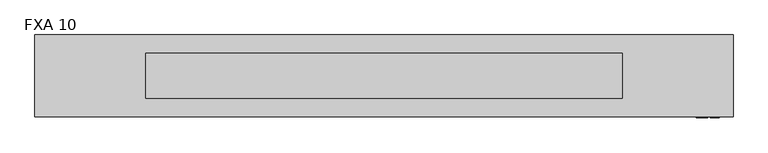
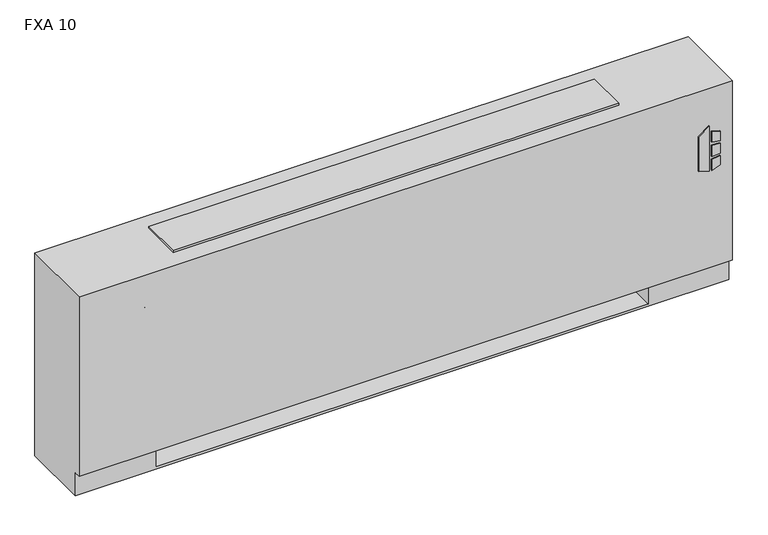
"""IFC4 building model written with IfcOpenShell, lengths in millimetres: proxy geometry, Vertical_Fan_Coil_Unit_-_FXA_-_IEC_-_2-Pipe_TS-FR_LH_2022 : FXA 10."""

import ifcopenshell
import ifcopenshell.guid

model = None  # the IFC model being written
_history = None  # IfcOwnerHistory: only IFC2X3 demands one
_inside = {}  # id of a spatial element -> (the spatial element, [elements in it])
_under = {}  # id of a project, library or spatial element -> (it, [spatial elements below it])
_declared = {}  # id of a project -> (the project, [libraries it declares])
_typed = {}  # id of a type object -> (the type object, [elements of that type])
_made_of = {}  # id of a material, layer set ... -> (it, [elements and type objects made of it])


def new_model(schema):
    """Start an empty IFC model of exactly this schema.

    Asked for "IFC4X3", IfcOpenShell would pick the latest addendum, in which some entities
    have other attributes; the version numbers below select the first issue.
    IFC2X3 requires an IfcOwnerHistory on every rooted entity: one is made here for all.
    """
    global model, _history
    if schema == "IFC4X3":
        model = ifcopenshell.file(schema_version=(4, 3, 0, 0))
    else:
        model = ifcopenshell.file(schema=schema)
    _inside.clear()
    _under.clear()
    _declared.clear()
    _typed.clear()
    _made_of.clear()
    _history = None
    if model.schema == "IFC2X3":
        org = make("IfcOrganization", Name="unknown")
        user = make(
            "IfcPersonAndOrganization",
            ThePerson=make("IfcPerson", FamilyName="unknown"),
            TheOrganization=org,
        )
        app = make(
            "IfcApplication",
            ApplicationDeveloper=org,
            Version="unknown",
            ApplicationFullName="unknown",
            ApplicationIdentifier="unknown",
        )
        _history = make(
            "IfcOwnerHistory",
            OwningUser=user,
            OwningApplication=app,
            ChangeAction="ADDED",
            CreationDate=0,
        )
    return model


def make(cls, **values):
    """One entity of the class cls with the attributes given. An attribute that is None is left unset."""
    return model.create_entity(
        cls, **{name: value for name, value in values.items() if value is not None}
    )


def rooted(cls, **values):
    """An entity with a GlobalId (a new one), such as an element, a storey or a relation."""
    return make(cls, GlobalId=ifcopenshell.guid.new(), OwnerHistory=_history, **values)


def si_unit(unit_type, name, prefix=None):
    """IfcSIUnit, for example si_unit("LENGTHUNIT", "METRE", prefix="MILLI")."""
    return make("IfcSIUnit", UnitType=unit_type, Prefix=prefix, Name=name)


def assignment(units):
    """IfcUnitAssignment: the units of a project."""
    return None if units is None else make("IfcUnitAssignment", Units=units)


def point(xyz):
    """IfcCartesianPoint."""
    return None if xyz is None else make("IfcCartesianPoint", Coordinates=xyz)


def direction(xyz):
    """IfcDirection."""
    return None if xyz is None else make("IfcDirection", DirectionRatios=xyz)


def frame(location, z_axis=None, x_axis=None):
    """IfcAxis2Placement3D, a coordinate frame: its origin and axes. An axis left out is left unset."""
    return make(
        "IfcAxis2Placement3D",
        Location=point(location),
        Axis=direction(z_axis),
        RefDirection=direction(x_axis),
    )


def frame_2d(location, x_axis=None):
    """IfcAxis2Placement2D, a coordinate frame in the plane: its origin and x axis."""
    return make(
        "IfcAxis2Placement2D", Location=point(location), RefDirection=direction(x_axis)
    )


def origin():
    """The frame at (0, 0, 0) with its axes left unset."""
    return frame((0.0, 0.0, 0.0))


def place(relative_to, where):
    """IfcLocalPlacement: puts the frame where relative to a parent placement (None: the world)."""
    return make(
        "IfcLocalPlacement", PlacementRelTo=relative_to, RelativePlacement=where
    )


def context(
    kind, dimensions, precision=None, world=None, true_north=None, identifier=None
):
    """IfcGeometricRepresentationContext, for example the 3D "Model" context."""
    return make(
        "IfcGeometricRepresentationContext",
        ContextIdentifier=identifier,
        ContextType=kind,
        CoordinateSpaceDimension=dimensions,
        Precision=precision,
        WorldCoordinateSystem=world,
        TrueNorth=true_north,
    )


def project(units=None, contexts=None):
    """IfcProject with its units and contexts."""
    return rooted(
        "IfcProject",
        Name="project",
        RepresentationContexts=contexts,
        UnitsInContext=assignment(units),
    )


def spatial(cls, under=None, at=None, **own):
    """A site, building, storey or space (cls), placed at a placement, below another one or the project."""
    s = rooted(cls, ObjectPlacement=at, **own)
    if under is not None:
        _under.setdefault(under.id(), (under, []))[1].append(s)
    return s


def polyline(points):
    """IfcPolyline through the points."""
    return make("IfcPolyline", Points=[point(p) for p in points])


def circle_curve(where, radius):
    """IfcCircle in the frame where."""
    return make("IfcCircle", Position=where, Radius=radius)


def trimmed(basis, trim1, trim2, sense, master):
    """IfcTrimmedCurve: the piece of a basis curve between two trims."""
    return make(
        "IfcTrimmedCurve",
        BasisCurve=basis,
        Trim1=trim1,
        Trim2=trim2,
        SenseAgreement=sense,
        MasterRepresentation=master,
    )


def segment(curve, same_sense, transition):
    """IfcCompositeCurveSegment."""
    return make(
        "IfcCompositeCurveSegment",
        Transition=transition,
        SameSense=same_sense,
        ParentCurve=curve,
    )


def composite_curve(segments, self_intersect=None):
    """IfcCompositeCurve: segments joined end to end."""
    return make("IfcCompositeCurve", Segments=segments, SelfIntersect=self_intersect)


def outline(outer, holes=None, kind="AREA"):
    """IfcArbitraryClosedProfileDef: a profile drawn as a closed curve; with holes, ...WithVoids."""
    if holes is None:
        return make("IfcArbitraryClosedProfileDef", ProfileType=kind, OuterCurve=outer)
    return make(
        "IfcArbitraryProfileDefWithVoids",
        ProfileType=kind,
        OuterCurve=outer,
        InnerCurves=holes,
    )


def extrude(swept, where, along, depth):
    """IfcExtrudedAreaSolid: the profile swept, set in the frame where, extruded along a direction by depth."""
    return make(
        "IfcExtrudedAreaSolid",
        SweptArea=swept,
        Position=where,
        ExtrudedDirection=direction(along),
        Depth=depth,
    )


def shape(context_of_items, identifier, shape_type, items):
    """IfcShapeRepresentation: the items that make up one representation, for example the "Body"."""
    return make(
        "IfcShapeRepresentation",
        ContextOfItems=context_of_items,
        RepresentationIdentifier=identifier,
        RepresentationType=shape_type,
        Items=items,
    )


def source(mapping_origin, context_of_items, identifier, shape_type, items):
    """IfcRepresentationMap: a shape defined once, which mapped items show again and again."""
    return make(
        "IfcRepresentationMap",
        MappingOrigin=mapping_origin,
        MappedRepresentation=shape(context_of_items, identifier, shape_type, items),
    )


def transform(
    local_origin,
    x_axis=None,
    y_axis=None,
    z_axis=None,
    scale=None,
    scale2=None,
    scale3=None,
    uniform=True,
):
    """IfcCartesianTransformationOperator3D, or its non-uniform kind. x_axis, y_axis, z_axis: its Axis1, 2, 3."""
    if uniform:
        return make(
            "IfcCartesianTransformationOperator3D",
            Axis1=direction(x_axis),
            Axis2=direction(y_axis),
            LocalOrigin=point(local_origin),
            Scale=scale,
            Axis3=direction(z_axis),
        )
    return make(
        "IfcCartesianTransformationOperator3DnonUniform",
        Axis1=direction(x_axis),
        Axis2=direction(y_axis),
        LocalOrigin=point(local_origin),
        Scale=scale,
        Axis3=direction(z_axis),
        Scale2=scale2,
        Scale3=scale3,
    )


def mapped(mapping_source, mapping_target):
    """IfcMappedItem: shows the shape of a source again, moved by a transform."""
    return make(
        "IfcMappedItem", MappingSource=mapping_source, MappingTarget=mapping_target
    )


def made_of(thing, what):
    """Note that an element or type object is made of a material, layer set ...; save() writes the relation."""
    if what is not None:
        _made_of.setdefault(what.id(), (what, []))[1].append(thing)
    return thing


def element(
    cls,
    number,
    at=None,
    inside=None,
    cuts=None,
    type_object=None,
    material=None,
    context=None,
    identifier="Body",
    shape_type=None,
    held_by="IfcProductDefinitionShape",
    body=None,
    shapes=None,
    **own,
):
    """One element of the class cls, such as IfcWall. Its Tag is "e" and its number.

    at: its placement. inside: the storey or other place that contains it. cuts: it is an
    opening in that element (IfcRelVoidsElement). A single representation is given by context,
    identifier, shape_type and body (its items); several are given by shapes. held_by: the class
    of the entity that holds the representations. save() writes the other relations.
    """
    e = rooted(cls, Tag="e%d" % number, ObjectPlacement=at, **own)
    if body is not None:
        shapes = [shape(context, identifier, shape_type, body)]
    if shapes is not None:
        e.Representation = make(held_by, Representations=shapes)
    if inside is not None:
        _inside.setdefault(inside.id(), (inside, []))[1].append(e)
    if cuts is not None:
        rooted(
            "IfcRelVoidsElement", RelatingBuildingElement=cuts, RelatedOpeningElement=e
        )
    if type_object is not None:
        _typed.setdefault(type_object.id(), (type_object, []))[1].append(e)
    return made_of(e, material)


def aggregate(whole, parts):
    """IfcRelAggregates: a whole, such as a stair, and the parts it consists of."""
    return rooted("IfcRelAggregates", RelatingObject=whole, RelatedObjects=parts)


def save(model, path):
    """Write the relations noted so far, then the file.

    IfcRelAggregates (storeys below a building ...), IfcRelContainedInSpatialStructure (elements
    in a storey), IfcRelDefinesByType, IfcRelAssociatesMaterial and IfcRelDeclares: one each for
    every whole, place, type object, material and project.
    """
    for whole, parts in _under.values():
        aggregate(whole, parts)
    for where, things in _inside.values():
        rooted(
            "IfcRelContainedInSpatialStructure",
            RelatedElements=things,
            RelatingStructure=where,
        )
    for kind, things in _typed.values():
        rooted("IfcRelDefinesByType", RelatedObjects=things, RelatingType=kind)
    for what, things in _made_of.values():
        rooted("IfcRelAssociatesMaterial", RelatedObjects=things, RelatingMaterial=what)
    for by, libraries in _declared.values():
        rooted("IfcRelDeclares", RelatingContext=by, RelatedDefinitions=libraries)
    model.write(path)


def plane_surface(at):
    """IfcPlane: the flat surface through the origin of the frame at, square to its z axis."""
    return make("IfcPlane", Position=at)


def revolved_surface(curve, axis_point, axis_direction):
    """IfcSurfaceOfRevolution: the curve turned about the line through axis_point along axis_direction."""
    return make(
        "IfcSurfaceOfRevolution",
        SweptCurve=make("IfcArbitraryOpenProfileDef", ProfileType="CURVE", Curve=curve),
        AxisPosition=make("IfcAxis1Placement", Location=point(axis_point), Axis=direction(axis_direction)),
    )


def advanced_brep(points, edges, surfaces, faces):
    """IfcAdvancedBrep: a solid bounded by faces that lie on surfaces and meet in shared edges.

    An edge is (start, end): straight between two places in points (the first is 0);
    or (start, end, curve); or (start, end, curve, False) where it runs against its curve.
    A face is (place in surfaces, loops), or (place, loops, False) where it looks against
    its surface's normal. A loop lists edges by number (the first is 1), with a minus sign
    where the edge is run from its end to its start. The first loop is the outer one.
    """
    corners = [point(p) for p in points]
    vertices = [make("IfcVertexPoint", VertexGeometry=c) for c in corners]
    made = []
    for start, end, *more in edges:
        made.append(
            make(
                "IfcEdgeCurve",
                EdgeStart=vertices[start],
                EdgeEnd=vertices[end],
                EdgeGeometry=more[0] if more else make("IfcPolyline", Points=[corners[start], corners[end]]),
                SameSense=more[1] if len(more) > 1 else True,
            )
        )
    hull = []
    for where, loops, *sense in faces:
        bounds = []
        for j, loop in enumerate(loops):
            ring = [make("IfcOrientedEdge", EdgeElement=made[abs(k) - 1], Orientation=k > 0) for k in loop]
            bounds.append(
                make(
                    "IfcFaceOuterBound" if j == 0 else "IfcFaceBound",
                    Bound=make("IfcEdgeLoop", EdgeList=ring),
                    Orientation=True,
                )
            )
        hull.append(make("IfcAdvancedFace", Bounds=bounds, FaceSurface=surfaces[where], SameSense=sense[0] if sense else True))
    return make("IfcAdvancedBrep", Outer=make("IfcClosedShell", CfsFaces=hull))


def fxa_10_e9784f62(model_context):
    return source(origin(), model_context, "Body", "SolidModel", [
        extrude(outline(polyline([(391.6086829, 1027.1868862), (381.6606126, 1059.3602728), (523.831537, 1059.3602728), (500.8095309, 1027.1868862), (391.6086829, 1027.1868862)])), frame((0.0, 12.7, 0.0), z_axis=(0.0, 1.0, 0.0), x_axis=(0.0, 0.0, 1.0)), (0.0, 0.0, 1.0), 3.175),
        extrude(outline(polyline([(470.6079683, 1066.1186058), (467.4055757, 1092.2), (496.6344168, 1092.2), (504.6988318, 1066.1186058), (470.6079683, 1066.1186058)])), frame((0.0, 12.7, 0.0), z_axis=(0.0, 1.0, 0.0), x_axis=(0.0, 0.0, 1.0)), (0.0, 0.0, 1.0), 3.175),
        extrude(outline(polyline([(418.7444414, 1092.2), (415.0789404, 1066.1186058), (381.6606126, 1066.1186058), (390.2948498, 1092.2), (418.7444414, 1092.2)])), frame((0.0, 12.7, 0.0), z_axis=(0.0, 1.0, 0.0), x_axis=(0.0, 0.0, 1.0)), (0.0, 0.0, 1.0), 3.175),
        extrude(outline(polyline([(458.0596028, 1092.2), (460.3414292, 1066.1186058), (424.4038806, 1066.1186058), (427.1451456, 1092.2), (458.0596028, 1092.2)])), frame((0.0, 12.7, 0.0), z_axis=(0.0, 1.0, 0.0), x_axis=(0.0, 0.0, 1.0)), (0.0, 0.0, 1.0), 3.175),
        extrude(outline(polyline([(1009.65, 223.266), (1009.65, 81.534), (889.0, 81.534), (889.0, 223.266), (1009.65, 223.266)])), frame((0.0, 0.0, 327.025), z_axis=(0.0, 0.0, 1.0), x_axis=(1.0, 0.0, 0.0)), (0.0, 0.0, 1.0), 260.35),
        extrude(outline(composite_curve([segment(trimmed(circle_curve(frame_2d((-647.7, 130.175)), 9.525), [point((-657.225, 130.175))], [point((-638.175, 130.175))], False, "CARTESIAN"), True, "CONTINUOUS"), segment(trimmed(circle_curve(frame_2d((-647.7, 130.175)), 9.525), [point((-638.175, 130.175))], [point((-657.225, 130.175))], False, "CARTESIAN"), True, "CONTINUOUS")], self_intersect=False)), frame((0.0, 0.0, 101.6), z_axis=(0.0, 0.0, 1.0), x_axis=(1.0, 0.0, 0.0)), (0.0, 0.0, 1.0), 25.4),
        extrude(outline(polyline([(-742.95, 63.5), (-742.95, 196.85), (-584.2, 196.85), (-584.2, 63.5), (-742.95, 63.5)])), frame((0.0, 0.0, 127.0), z_axis=(0.0, 0.0, 1.0), x_axis=(1.0, 0.0, 0.0)), (0.0, 0.0, 1.0), 50.8),
        extrude(outline(composite_curve([segment(trimmed(circle_curve(frame_2d((93.1926, 485.5972)), 7.9375), [point((93.1926, 493.5347))], [point((93.1926, 477.6597))], False, "CARTESIAN"), True, "CONTINUOUS"), segment(trimmed(circle_curve(frame_2d((93.1926, 485.5972)), 7.9375), [point((93.1926, 477.6597))], [point((93.1926, 493.5347))], False, "CARTESIAN"), True, "CONTINUOUS")], self_intersect=False)), frame((-635.0, 0.0, 0.0), z_axis=(1.0, 0.0, 0.0), x_axis=(0.0, 1.0, 0.0)), (0.0, 0.0, 1.0), 50.8),
        extrude(outline(composite_curve([segment(trimmed(circle_curve(frame_2d((141.3002, 458.9526)), 7.9375), [point((141.3002, 466.8901))], [point((141.3002, 451.0151))], False, "CARTESIAN"), True, "CONTINUOUS"), segment(trimmed(circle_curve(frame_2d((141.3002, 458.9526)), 7.9375), [point((141.3002, 451.0151))], [point((141.3002, 466.8901))], False, "CARTESIAN"), True, "CONTINUOUS")], self_intersect=False)), frame((-635.0, 0.0, 0.0), z_axis=(1.0, 0.0, 0.0), x_axis=(0.0, 1.0, 0.0)), (0.0, 0.0, 1.0), 50.8),
        advanced_brep(
        [(1130.3, 244.475, 641.35), (-825.5, 244.475, 641.35), (-825.5, 15.875, 641.35), (1130.3, 15.875, 641.35), (-825.5, 244.475, 0.0), (1130.3, 244.475, 0.0), (1130.3, 34.925, 0.0), (-825.5, 34.925, 0.0), (889.0, 244.475, 73.025), (1117.6, 244.475, 73.025), (1117.6, 244.475, 628.65), (889.0, 244.475, 628.65), (889.0, 244.475, 414.8650565), (917.575, 244.475, 414.8650565), (917.575, 244.475, 385.2349435), (889.0, 244.475, 385.2349435), (889.0, 244.475, 287.3375), (917.575, 244.475, 287.3375), (917.575, 244.475, 258.7625), (889.0, 244.475, 258.7625), (889.0, 244.475, 141.2875), (917.575, 244.475, 141.2875), (917.575, 244.475, 112.7125), (889.0, 244.475, 112.7125), (-584.2, 244.475, 628.65), (-812.8, 244.475, 628.65), (-812.8, 244.475, 73.025), (-584.2, 244.475, 73.025), (-584.2, 244.475, 112.7125), (-612.775, 244.475, 112.7125), (-612.775, 244.475, 141.2875), (-584.2, 244.475, 141.2875), (-584.2, 244.475, 258.7625), (-612.775, 244.475, 258.7625), (-612.775, 244.475, 287.3375), (-584.2, 244.475, 287.3375), (-584.2, 244.475, 385.2349435), (-612.775, 244.475, 385.2349435), (-612.775, 244.475, 414.8650565), (-584.2, 244.475, 414.8650565), (907.2626, 244.475, 127.0), (896.1374, 244.475, 127.0), (907.2626, 244.475, 400.05), (896.1374, 244.475, 400.05), (907.2626, 244.475, 273.05), (896.1374, 244.475, 273.05), (-591.3374, 244.475, 127.0), (-602.4626, 244.475, 127.0), (-591.3374, 244.475, 273.05), (-602.4626, 244.475, 273.05), (-591.3374, 244.475, 400.05), (-602.4626, 244.475, 400.05), (-825.5, 34.925, 73.025), (-825.5, 15.875, 73.025), (1130.3, 15.875, 73.025), (1130.3, 34.925, 73.025), (-584.2, 34.925, 73.025), (-584.2, 219.075, 73.025), (889.0, 219.075, 73.025), (889.0, 34.925, 73.025), (889.0, 34.925, 6.35), (-584.2, 34.925, 6.35), (889.0, 41.275, 628.65), (1117.6, 41.275, 628.65), (1117.6, 41.275, 73.025), (889.0, 41.275, 73.025), (-584.2, 41.275, 628.65), (-584.2, 41.275, 73.025), (-812.8, 41.275, 73.025), (-812.8, 41.275, 628.65), (889.0, 219.075, 73.025), (889.0, 238.125, 112.7125), (889.0, 238.125, 141.2875), (889.0, 238.125, 258.7625), (889.0, 238.125, 287.3375), (889.0, 238.125, 385.2349435), (889.0, 238.125, 414.8650565), (-584.2, 219.075, 73.025), (-584.2, 238.125, 414.8650565), (-584.2, 238.125, 385.2349435), (-584.2, 238.125, 287.3375), (-584.2, 238.125, 258.7625), (-584.2, 238.125, 141.2875), (-584.2, 238.125, 112.7125), (-584.2, 219.075, 6.35), (889.0, 219.075, 6.35), (917.575, 238.125, 112.7125), (917.575, 238.125, 141.2875), (896.1374, 238.125, 127.0), (907.2626, 238.125, 127.0), (917.575, 238.125, 258.7625), (917.575, 238.125, 287.3375), (896.1374, 238.125, 273.05), (907.2626, 238.125, 273.05), (917.575, 238.125, 385.2349435), (917.575, 238.125, 414.8650565), (896.1374, 238.125, 400.05), (907.2626, 238.125, 400.05), (-612.775, 238.125, 141.2875), (-612.775, 238.125, 112.7125), (-602.4626, 238.125, 127.0), (-591.3374, 238.125, 127.0), (-612.775, 238.125, 287.3375), (-612.775, 238.125, 258.7625), (-602.4626, 238.125, 273.05), (-591.3374, 238.125, 273.05), (-612.775, 238.125, 414.8650565), (-612.775, 238.125, 385.2349435), (-602.4626, 238.125, 400.05), (-591.3374, 238.125, 400.05)],
        [
            (0, 1),
            (1, 2),
            (2, 3),
            (3, 0),
            (4, 5),
            (5, 6),
            (6, 7),
            (7, 4),
            (0, 5),
            (4, 1),
            (8, 9),
            (9, 10),
            (10, 11),
            (11, 12),
            (12, 13),
            (13, 14),
            (14, 15),
            (15, 16),
            (16, 17),
            (17, 18),
            (18, 19),
            (19, 20),
            (20, 21),
            (21, 22),
            (22, 23),
            (23, 8),
            (24, 25),
            (25, 26),
            (26, 27),
            (27, 28),
            (28, 29),
            (29, 30),
            (30, 31),
            (31, 32),
            (32, 33),
            (33, 34),
            (34, 35),
            (35, 36),
            (36, 37),
            (37, 38),
            (38, 39),
            (39, 24),
            (40, 41, circle_curve(frame((901.7, 244.475, 127.0), z_axis=(0.0, -1.0, 0.0), x_axis=(-1.0, 0.0, 0.0)), 5.5626)),
            (41, 40, circle_curve(frame((901.7, 244.475, 127.0), z_axis=(0.0, -1.0, 0.0), x_axis=(-1.0, 0.0, 0.0)), 5.5626)),
            (42, 43, circle_curve(frame((901.7, 244.475, 400.05), z_axis=(0.0, -1.0, 0.0), x_axis=(-1.0, 0.0, 0.0)), 5.5626)),
            (43, 42, circle_curve(frame((901.7, 244.475, 400.05), z_axis=(0.0, -1.0, 0.0), x_axis=(-1.0, 0.0, 0.0)), 5.5626)),
            (44, 45, circle_curve(frame((901.7, 244.475, 273.05), z_axis=(0.0, -1.0, 0.0), x_axis=(-1.0, 0.0, 0.0)), 5.5626)),
            (45, 44, circle_curve(frame((901.7, 244.475, 273.05), z_axis=(0.0, -1.0, 0.0), x_axis=(-1.0, 0.0, 0.0)), 5.5626)),
            (46, 47, circle_curve(frame((-596.9, 244.475, 127.0), z_axis=(0.0, -1.0, 0.0), x_axis=(-1.0, 0.0, 0.0)), 5.5626)),
            (47, 46, circle_curve(frame((-596.9, 244.475, 127.0), z_axis=(0.0, -1.0, 0.0), x_axis=(-1.0, 0.0, 0.0)), 5.5626)),
            (48, 49, circle_curve(frame((-596.9, 244.475, 273.05), z_axis=(0.0, -1.0, 0.0), x_axis=(-1.0, 0.0, 0.0)), 5.5626)),
            (49, 48, circle_curve(frame((-596.9, 244.475, 273.05), z_axis=(0.0, -1.0, 0.0), x_axis=(-1.0, 0.0, 0.0)), 5.5626)),
            (50, 51, circle_curve(frame((-596.9, 244.475, 400.05), z_axis=(0.0, -1.0, 0.0), x_axis=(-1.0, 0.0, 0.0)), 5.5626)),
            (51, 50, circle_curve(frame((-596.9, 244.475, 400.05), z_axis=(0.0, -1.0, 0.0), x_axis=(-1.0, 0.0, 0.0)), 5.5626)),
            (7, 52),
            (52, 53),
            (53, 2),
            (53, 54),
            (54, 3),
            (54, 55),
            (55, 6),
            (52, 56),
            (56, 57),
            (57, 58),
            (58, 59),
            (59, 55),
            (59, 60),
            (60, 61),
            (61, 56),
            (62, 63),
            (63, 64),
            (64, 65),
            (65, 62),
            (66, 67),
            (67, 68),
            (68, 69),
            (69, 66),
            (65, 70),
            (70, 8),
            (23, 71),
            (71, 72),
            (72, 20),
            (19, 73),
            (73, 74),
            (74, 16),
            (15, 75),
            (75, 76),
            (76, 12),
            (11, 62),
            (64, 9),
            (63, 10),
            (69, 25),
            (24, 66),
            (68, 26),
            (67, 77),
            (77, 27),
            (39, 78),
            (78, 79),
            (79, 36),
            (35, 80),
            (80, 81),
            (81, 32),
            (31, 82),
            (82, 83),
            (83, 28),
            (57, 84),
            (84, 85),
            (85, 58),
            (85, 60),
            (84, 61),
            (71, 86),
            (86, 87),
            (87, 72),
            (88, 89, circle_curve(frame((901.7, 238.125, 127.0), z_axis=(0.0, 1.0, 0.0), x_axis=(-1.0, 0.0, 0.0)), 5.5626)),
            (89, 88, circle_curve(frame((901.7, 238.125, 127.0), z_axis=(0.0, 1.0, 0.0), x_axis=(-1.0, 0.0, 0.0)), 5.5626)),
            (73, 90),
            (90, 91),
            (91, 74),
            (92, 93, circle_curve(frame((901.7, 238.125, 273.05), z_axis=(0.0, 1.0, 0.0), x_axis=(-1.0, 0.0, 0.0)), 5.5626)),
            (93, 92, circle_curve(frame((901.7, 238.125, 273.05), z_axis=(0.0, 1.0, 0.0), x_axis=(-1.0, 0.0, 0.0)), 5.5626)),
            (75, 94),
            (94, 95),
            (95, 76),
            (96, 97, circle_curve(frame((901.7, 238.125, 400.05), z_axis=(0.0, 1.0, 0.0), x_axis=(-1.0, 0.0, 0.0)), 5.5626)),
            (97, 96, circle_curve(frame((901.7, 238.125, 400.05), z_axis=(0.0, 1.0, 0.0), x_axis=(-1.0, 0.0, 0.0)), 5.5626)),
            (98, 99),
            (99, 83),
            (82, 98),
            (100, 101, circle_curve(frame((-596.9, 238.125, 127.0), z_axis=(0.0, 1.0, 0.0), x_axis=(-1.0, 0.0, 0.0)), 5.5626)),
            (101, 100, circle_curve(frame((-596.9, 238.125, 127.0), z_axis=(0.0, 1.0, 0.0), x_axis=(-1.0, 0.0, 0.0)), 5.5626)),
            (102, 103),
            (103, 81),
            (80, 102),
            (104, 105, circle_curve(frame((-596.9, 238.125, 273.05), z_axis=(0.0, 1.0, 0.0), x_axis=(-1.0, 0.0, 0.0)), 5.5626)),
            (105, 104, circle_curve(frame((-596.9, 238.125, 273.05), z_axis=(0.0, 1.0, 0.0), x_axis=(-1.0, 0.0, 0.0)), 5.5626)),
            (106, 107),
            (107, 79),
            (78, 106),
            (108, 109, circle_curve(frame((-596.9, 238.125, 400.05), z_axis=(0.0, 1.0, 0.0), x_axis=(-1.0, 0.0, 0.0)), 5.5626)),
            (109, 108, circle_curve(frame((-596.9, 238.125, 400.05), z_axis=(0.0, 1.0, 0.0), x_axis=(-1.0, 0.0, 0.0)), 5.5626)),
            (87, 21),
            (86, 22),
            (91, 17),
            (90, 18),
            (95, 13),
            (94, 14),
            (30, 98),
            (99, 29),
            (34, 102),
            (103, 33),
            (38, 106),
            (107, 37),
            (88, 41),
            (40, 89),
            (96, 43),
            (42, 97),
            (92, 45),
            (44, 93),
            (100, 47),
            (46, 101),
            (104, 49),
            (48, 105),
            (108, 51),
            (50, 109),
        ],
        [
            plane_surface(frame((-825.5, 244.475, 641.35), z_axis=(0.0, 0.0, 1.0), x_axis=(-1.0, 0.0, 0.0))),
            plane_surface(frame((-825.5, 244.475, 0.0), z_axis=(0.0, 0.0, -1.0), x_axis=(1.0, 0.0, 0.0))),
            plane_surface(frame((1130.3, 244.475, 641.35), z_axis=(0.0, 1.0, 0.0), x_axis=(0.0, 0.0, -1.0))),
            plane_surface(frame((-825.5, 244.475, 641.35), z_axis=(-1.0, 0.0, 0.0), x_axis=(0.0, 0.0, -1.0))),
            plane_surface(frame((-825.5, 15.875, 641.35), z_axis=(0.0, -1.0, 0.0), x_axis=(0.0, 0.0, -1.0))),
            plane_surface(frame((1130.3, 15.875, 641.35), z_axis=(1.0, 0.0, 0.0), x_axis=(0.0, 0.0, -1.0))),
            plane_surface(frame((-825.5, 15.875, 73.025), z_axis=(0.0, 0.0, -1.0), x_axis=(1.0, 0.0, 0.0))),
            plane_surface(frame((-825.5, 34.925, 73.025), z_axis=(0.0, -1.0, 0.0), x_axis=(1.0, 0.0, 0.0))),
            plane_surface(frame((889.0, 41.275, 628.65), z_axis=(0.0, 1.0, 0.0), x_axis=(0.0, 0.0, -1.0))),
            plane_surface(frame((889.0, 41.275, 628.65), z_axis=(1.0, 0.0, 0.0), x_axis=(0.0, 1.0, 0.0))),
            plane_surface(frame((889.0, 41.275, 73.025), z_axis=(0.0, 0.0, 1.0), x_axis=(0.0, 1.0, 0.0))),
            plane_surface(frame((1117.6, 41.275, 73.025), z_axis=(-1.0, 0.0, 0.0), x_axis=(0.0, 1.0, 0.0))),
            plane_surface(frame((1117.6, 41.275, 628.65), z_axis=(0.0, 0.0, -1.0), x_axis=(0.0, 1.0, 0.0))),
            plane_surface(frame((-584.2, 41.275, 628.65), z_axis=(0.0, 0.0, -1.0), x_axis=(0.0, 1.0, 0.0))),
            plane_surface(frame((-812.8, 41.275, 628.65), z_axis=(1.0, 0.0, 0.0), x_axis=(0.0, 1.0, 0.0))),
            plane_surface(frame((-812.8, 41.275, 73.025), z_axis=(0.0, 0.0, 1.0), x_axis=(0.0, 1.0, 0.0))),
            plane_surface(frame((-584.2, 41.275, 73.025), z_axis=(-1.0, 0.0, 0.0), x_axis=(0.0, 1.0, 0.0))),
            plane_surface(frame((889.0, 219.075, 73.025), z_axis=(0.0, -1.0, 0.0), x_axis=(0.0, 0.0, -1.0))),
            plane_surface(frame((889.0, 219.075, 73.025), z_axis=(-1.0, 0.0, 0.0), x_axis=(0.0, -1.0, 0.0))),
            plane_surface(frame((889.0, 219.075, 6.35), z_axis=(0.0, 0.0, 1.0), x_axis=(0.0, -1.0, 0.0))),
            plane_surface(frame((-584.2, 219.075, 6.35), z_axis=(1.0, 0.0, 0.0), x_axis=(0.0, -1.0, 0.0))),
            plane_surface(frame((917.575, 238.125, 141.2875), z_axis=(0.0, -1.0, 0.0), x_axis=(-1.0, 0.0, 0.0))),
            plane_surface(frame((889.0, 244.475, 141.2875), z_axis=(0.0, 0.0, 1.0), x_axis=(0.0, -1.0, 0.0))),
            plane_surface(frame((917.575, 244.475, 141.2875), z_axis=(1.0, 0.0, 0.0), x_axis=(0.0, -1.0, 0.0))),
            plane_surface(frame((917.575, 244.475, 112.7125), z_axis=(0.0, 0.0, -1.0), x_axis=(0.0, -1.0, 0.0))),
            plane_surface(frame((889.0, 244.475, 287.3375), z_axis=(0.0, 0.0, 1.0), x_axis=(0.0, -1.0, 0.0))),
            plane_surface(frame((917.575, 244.475, 287.3375), z_axis=(1.0, 0.0, 0.0), x_axis=(0.0, -1.0, 0.0))),
            plane_surface(frame((917.575, 244.475, 258.7625), z_axis=(0.0, 0.0, -1.0), x_axis=(0.0, -1.0, 0.0))),
            plane_surface(frame((889.0, 244.475, 414.8650565), z_axis=(0.0, 0.0, 1.0), x_axis=(0.0, -1.0, 0.0))),
            plane_surface(frame((917.575, 244.475, 414.8650565), z_axis=(1.0, 0.0, 0.0), x_axis=(0.0, -1.0, 0.0))),
            plane_surface(frame((917.575, 244.475, 385.2349435), z_axis=(0.0, 0.0, -1.0), x_axis=(0.0, -1.0, 0.0))),
            plane_surface(frame((-612.775, 244.475, 141.2875), z_axis=(0.0, 0.0, 1.0), x_axis=(0.0, -1.0, 0.0))),
            plane_surface(frame((-584.2, 244.475, 112.7125), z_axis=(0.0, 0.0, -1.0), x_axis=(0.0, -1.0, 0.0))),
            plane_surface(frame((-612.775, 244.475, 112.7125), z_axis=(-1.0, 0.0, 0.0), x_axis=(0.0, -1.0, 0.0))),
            plane_surface(frame((-612.775, 244.475, 287.3375), z_axis=(0.0, 0.0, 1.0), x_axis=(0.0, -1.0, 0.0))),
            plane_surface(frame((-584.2, 244.475, 258.7625), z_axis=(0.0, 0.0, -1.0), x_axis=(0.0, -1.0, 0.0))),
            plane_surface(frame((-612.775, 244.475, 258.7625), z_axis=(-1.0, 0.0, 0.0), x_axis=(0.0, -1.0, 0.0))),
            plane_surface(frame((-612.775, 244.475, 414.8650565), z_axis=(0.0, 0.0, 1.0), x_axis=(0.0, -1.0, 0.0))),
            plane_surface(frame((-584.2, 244.475, 385.2349435), z_axis=(0.0, 0.0, -1.0), x_axis=(0.0, -1.0, 0.0))),
            plane_surface(frame((-612.775, 244.475, 385.2349435), z_axis=(-1.0, 0.0, 0.0), x_axis=(0.0, -1.0, 0.0))),
            revolved_surface(polyline([(896.1374000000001, 238.125, 127.0), (896.1374000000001, 244.475, 127.0)]), (901.7, 244.475, 127.0), (0.0, -1.0, 0.0)),
            revolved_surface(polyline([(896.1374000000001, 238.125, 400.05), (896.1374000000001, 244.475, 400.05)]), (901.7, 244.475, 400.05), (0.0, -1.0, 0.0)),
            revolved_surface(polyline([(896.1374000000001, 238.125, 273.05), (896.1374000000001, 244.475, 273.05)]), (901.7, 244.475, 273.05), (0.0, -1.0, 0.0)),
            revolved_surface(polyline([(-602.4626, 238.125, 127.0), (-602.4626, 244.475, 127.0)]), (-596.9, 244.475, 127.0), (0.0, -1.0, 0.0)),
            revolved_surface(polyline([(-602.4626, 238.125, 273.05), (-602.4626, 244.475, 273.05)]), (-596.9, 244.475, 273.05), (0.0, -1.0, 0.0)),
            revolved_surface(polyline([(-602.4626, 238.125, 400.05), (-602.4626, 244.475, 400.05)]), (-596.9, 244.475, 400.05), (0.0, -1.0, 0.0)),
        ],
        [
            (0, [[1, 2, 3, 4]]),
            (1, [[5, 6, 7, 8]]),
            (2, [[-1, 9, -5, 10], [11, 12, 13, 14, 15, 16, 17, 18, 19, 20, 21, 22, 23, 24, 25, 26], [27, 28, 29, 30, 31, 32, 33, 34, 35, 36, 37, 38, 39, 40, 41, 42], [43, 44], [45, 46], [47, 48], [49, 50], [51, 52], [53, 54]]),
            (3, [[-2, -10, -8, 55, 56, 57]]),
            (4, [[-3, -57, 58, 59]]),
            (5, [[-4, -59, 60, 61, -6, -9]]),
            (6, [[-56, 62, 63, 64, 65, 66, -60, -58]]),
            (7, [[-7, -61, -66, 67, 68, 69, -62, -55]]),
            (8, [[70, 71, 72, 73]]),
            (8, [[74, 75, 76, 77]]),
            (9, [[-73, 78, 79, -26, 80, 81, 82, -22, 83, 84, 85, -18, 86, 87, 88, -14, 89]]),
            (10, [[-72, 90, -11, -79, -78]]),
            (11, [[-71, 91, -12, -90]]),
            (12, [[-70, -89, -13, -91]]),
            (13, [[-77, 92, -27, 93]]),
            (14, [[-76, 94, -28, -92]]),
            (15, [[-75, 95, 96, -29, -94]]),
            (16, [[-74, -93, -42, 97, 98, 99, -38, 100, 101, 102, -34, 103, 104, 105, -30, -96, -95]]),
            (17, [[-64, 106, 107, 108]]),
            (18, [[-108, 109, -67, -65]]),
            (19, [[-107, 110, -68, -109]]),
            (20, [[-106, -63, -69, -110]]),
            (21, [[111, 112, 113, -81], [114, 115]]),
            (21, [[116, 117, 118, -84], [119, 120]]),
            (21, [[121, 122, 123, -87], [124, 125]]),
            (21, [[126, 127, -104, 128], [129, 130]]),
            (21, [[131, 132, -101, 133], [134, 135]]),
            (21, [[136, 137, -98, 138], [139, 140]]),
            (22, [[-113, 141, -23, -82]]),
            (23, [[-112, 142, -24, -141]]),
            (24, [[-111, -80, -25, -142]]),
            (25, [[-118, 143, -19, -85]]),
            (26, [[-117, 144, -20, -143]]),
            (27, [[-116, -83, -21, -144]]),
            (28, [[-123, 145, -15, -88]]),
            (29, [[-122, 146, -16, -145]]),
            (30, [[-121, -86, -17, -146]]),
            (31, [[-128, -103, -33, 147]]),
            (32, [[-127, 148, -31, -105]]),
            (33, [[-126, -147, -32, -148]]),
            (34, [[-133, -100, -37, 149]]),
            (35, [[-132, 150, -35, -102]]),
            (36, [[-131, -149, -36, -150]]),
            (37, [[-138, -97, -41, 151]]),
            (38, [[-137, 152, -39, -99]]),
            (39, [[-136, -151, -40, -152]]),
            (40, [[153, -43, 154, -114]]),
            (40, [[-153, -115, -154, -44]]),
            (41, [[155, -45, 156, -124]]),
            (41, [[-155, -125, -156, -46]]),
            (42, [[157, -47, 158, -119]]),
            (42, [[-157, -120, -158, -48]]),
            (43, [[159, -49, 160, -129]]),
            (43, [[-159, -130, -160, -50]]),
            (44, [[161, -51, 162, -134]]),
            (44, [[-161, -135, -162, -52]]),
            (45, [[163, -53, 164, -139]]),
            (45, [[-163, -140, -164, -54]]),
        ],
    ),
        extrude(outline(polyline([(819.15, 193.675), (819.15, 66.675), (-514.35, 66.675), (-514.35, 193.675), (819.15, 193.675)])), frame((0.0, 0.0, 641.35), z_axis=(0.0, 0.0, 1.0), x_axis=(1.0, 0.0, 0.0)), (0.0, 0.0, 1.0), 6.35),
    ])


if __name__ == "__main__":
    model = new_model("IFC4")
    model_context = context("Model", 3, world=origin())
    ifc_project = project(units=[si_unit("LENGTHUNIT", "METRE", prefix="MILLI")], contexts=[model_context])
    site = spatial("IfcSite", under=ifc_project)
    building = spatial("IfcBuilding", under=site)
    placement = place(None, origin())
    fxa_10_shape = fxa_10_e9784f62(model_context)
    element("IfcBuildingElementProxy", 1, Name="Vertical_Fan_Coil_Unit_-_FXA_-_IEC_-_2-Pipe_TS-FR_LH_2022 : FXA 10", ObjectType="Vertical_Fan_Coil_Unit_-_FXA_-_IEC_-_2-Pipe_TS-FR_LH_2022 : FXA 10", at=placement, inside=building, context=model_context, shape_type="MappedRepresentation", body=[
        mapped(fxa_10_shape, transform((0.0, 0.0, 0.0), x_axis=(1.0, 0.0, 0.0), y_axis=(0.0, 1.0, 0.0), z_axis=(0.0, 0.0, 1.0))),
    ])
    save(model, "model.ifc")
